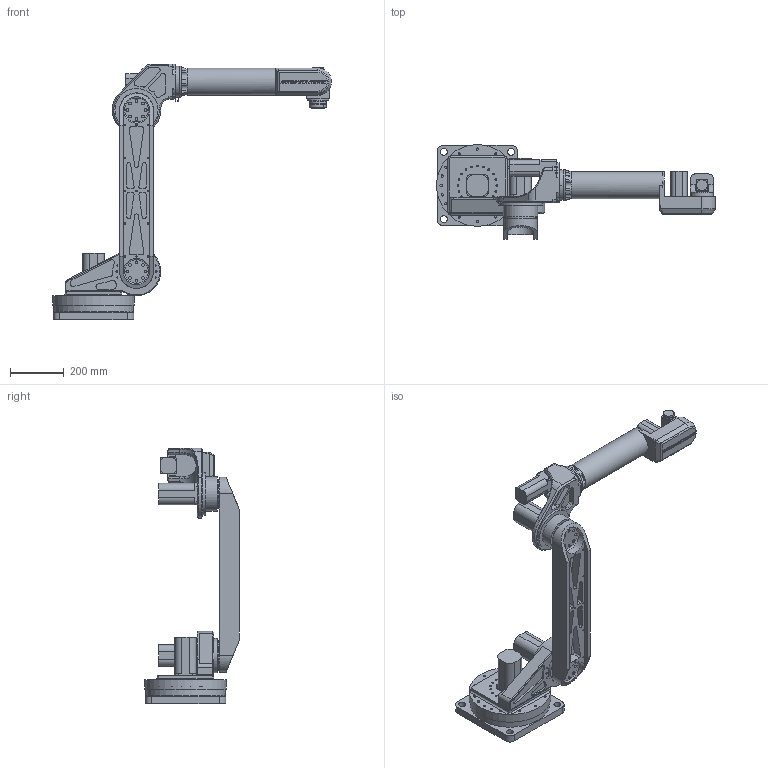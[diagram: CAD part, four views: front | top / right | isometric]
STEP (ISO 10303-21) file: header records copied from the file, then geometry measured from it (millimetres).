
FILE_DESCRIPTION(('Rosie 1400 exterior CAD: one filled solid per link at the zero pose, millimetres'),'2;1');
FILE_NAME('rosie_1400.step','2026-10-09T12:00:00',( 'Advanced Metal Research'),('Advanced Metal Research'),'AMR sim kit' ,'AMR sim kit','');
FILE_SCHEMA(('AUTOMOTIVE_DESIGN { 1 0 10303 214 1 1 1 1 }'));
Length unit declared in the file: millimetre
Products named in the file (8): rosie_1400; base_link; link_1; link_2; link_3; link_4; link_5; link_6
Assembly tree (7 placements, depth 2):
  rosie_1400
    base_link
    link_1
    link_2
    link_3
    link_4
    link_5
    link_6
Bounding box: 1035.74 x 352.25 x 949.4 mm (x, y, z)
Volume: 25656069.6 mm3; surface area: 1745893.8 mm2
Topology: 7 solids, 7 shells, 1413 faces, 3377 edges, 2207 vertices
Faces by surface type: plane 675, cylinder 456, cone 148, bspline 121, torus 12, extrusion 1
Full cylindrical faces by diameter (mm): 2.5 x11, 2.529 x12, 3 x4, 3.3 x8, 3.4 x6, 3.5 x10, 4.2 x12, 4.5 x8, 5.035 x13, 6.5 x4, 6.779 x19, 6.78 x14, 8 x1, 8.526 x23, 10 x3, 10.5 x36, 26 x16, 33.8 x1, 36 x1, 37.9 x1, 38 x2, 38.995 x1, 41.545 x1, 42 x2, 43 x2, 43.5 x1, 45 x1, 47 x2, 47.2 x1, 47.6 x1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
Entity records: 109363 total; most frequent: CARTESIAN_POINT 41622, DIRECTION 12444, VECTOR 6853, LINE 6852, ORIENTED_EDGE 6732, PCURVE 6732, DEFINITIONAL_REPRESENTATION 6732, EDGE_CURVE 3366
